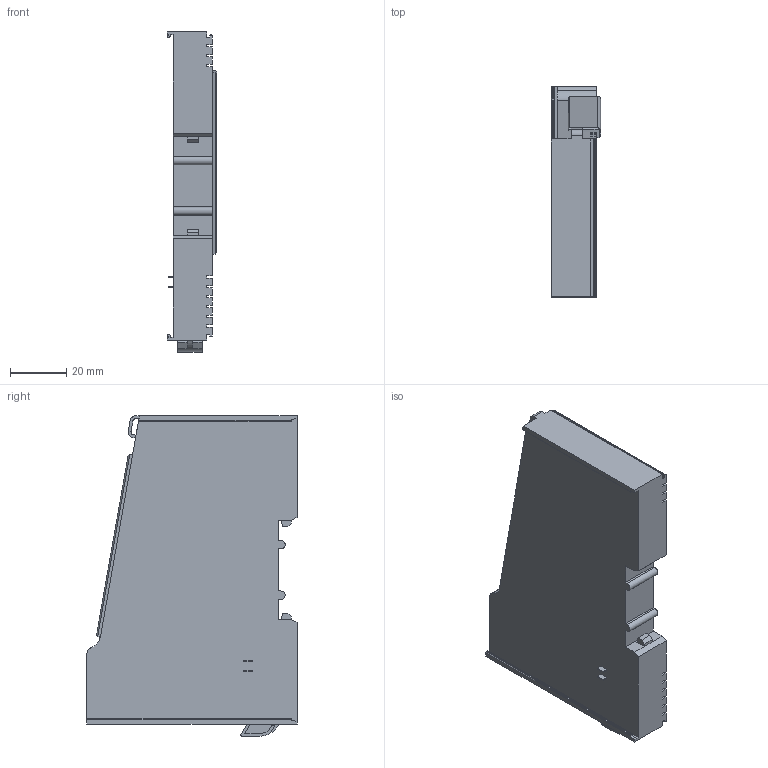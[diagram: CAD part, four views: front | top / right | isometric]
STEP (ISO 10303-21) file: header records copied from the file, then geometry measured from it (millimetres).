
FILE_DESCRIPTION (( 'STEP AP214' ), '1' );
FILE_NAME ('CT5801.STEP', '2023-07-12T08:19:56', ( '' ), ( '' ), 'SwSTEP 2.0', 'SolidWorks 2021', '' );
FILE_SCHEMA (( 'AUTOMOTIVE_DESIGN' ));
Length unit declared in the file: millimetre
Products named in the file (1): CT5801
Bounding box: 17.5 x 75 x 114.33 mm (x, y, z)
Volume: 99735.1 mm3; surface area: 23660 mm2
Topology: 1 solids, 1 shells, 290 faces, 812 edges, 538 vertices
Faces by surface type: plane 205, bspline 62, cylinder 23
Entity records: 12185 total; most frequent: CARTESIAN_POINT 5087, ORIENTED_EDGE 1624, DIRECTION 1181, EDGE_CURVE 812, LINE 637, VECTOR 637, VERTEX_POINT 538, EDGE_LOOP 306
